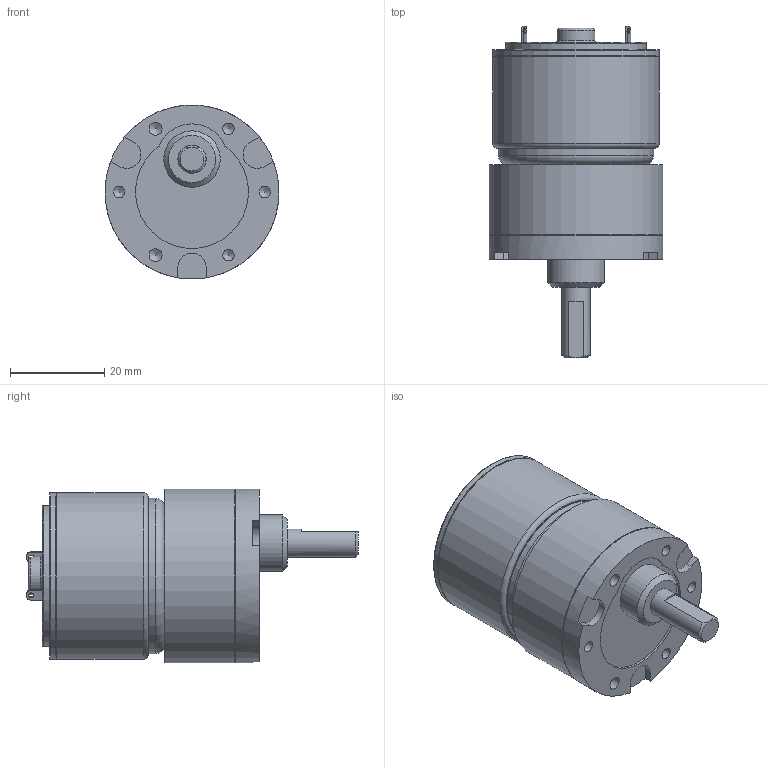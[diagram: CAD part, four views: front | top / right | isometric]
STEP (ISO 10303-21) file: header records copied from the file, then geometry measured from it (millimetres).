
FILE_DESCRIPTION((''),'2;1');
FILE_NAME('C:\Documents and Settings\SSEGAWA\デスクトップ\TP-3526E-KS-2.STP','2013-07-09T16:49:10',('SSEGAWA'),(''),'Autodesk Inventor 2010','Autodesk Inventor 2010','');
FILE_SCHEMA(('CONFIG_CONTROL_DESIGN'));
Length unit declared in the file: millimetre
Products named in the file (3): tp_3526e_ks_2; ks_2; tp_3526e
Assembly tree (2 placements, depth 2):
  tp_3526e_ks_2
    ks_2
    tp_3526e
Bounding box: 37 x 70.6 x 37 mm (x, y, z)
Volume: 47140.7 mm3; surface area: 10459.5 mm2
Topology: 3 solids, 3 shells, 91 faces, 203 edges, 133 vertices
Faces by surface type: plane 38, cylinder 23, bspline 22, torus 5, cone 3
Full cylindrical faces by diameter (mm): 1.1 x1, 2 x1, 2.4 x1, 5 x1, 6 x1, 8 x1, 10 x1, 12 x1, 30 x1, 33 x1, 35 x1, 35.4 x2, 36.6 x1, 37 x2
Entity records: 2560 total; most frequent: CARTESIAN_POINT 798, DIRECTION 363, ORIENTED_EDGE 268, AXIS2_PLACEMENT_3D 157, EDGE_LOOP 155, EDGE_CURVE 134, VERTEX_POINT 109, FACE_OUTER_BOUND 91
